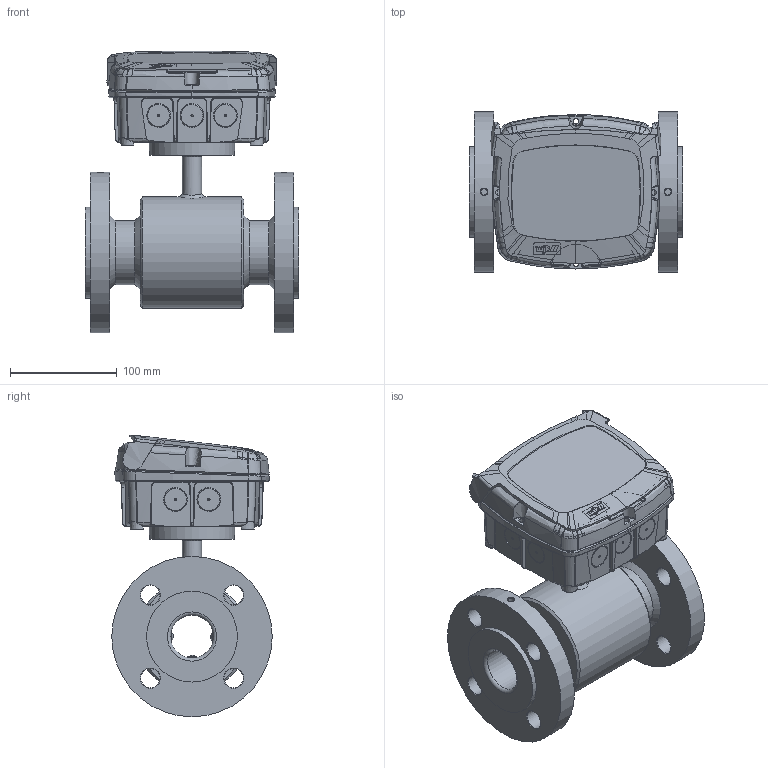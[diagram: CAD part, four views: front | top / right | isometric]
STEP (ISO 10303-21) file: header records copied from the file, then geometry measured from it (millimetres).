
FILE_DESCRIPTION((''),'2;1');
FILE_NAME('C:\Users\Claus\Dropbox\Projects 2011 - 2012\MJK Automation AS\DN 40 - DIN EN-1095-1.stp','2014-10-24T15:20:18',('Claus'),(''),'Autodesk Inventor 2013','Autodesk Inventor 2013','');
FILE_SCHEMA(('AUTOMOTIVE_DESIGN { 1 0 10303 214 1 1 1 1 }'));
Length unit declared in the file: millimetre
Products named in the file (7): DN 40 - DIN EN-1095-1; FC_MagFlux_assembly_r1; CH Bund ml; FC Top rev 06.04; CH 03.02; Electrode group DN15 - DN32
Assembly tree (8 placements, depth 3):
  DN 40 - DIN EN-1095-1
    DN 40 - DIN EN-1095-1
    FC_MagFlux_assembly_r1
      CH Bund ml
      FC Top rev 06.04
      CH 03.02
    Electrode group DN15 - DN32  x3
Bounding box: 200 x 150 x 263.34 mm (x, y, z)
Volume: 1772744.7 mm3; surface area: 415036.3 mm2
Topology: 10 solids, 10 shells, 2945 faces, 8006 edges, 5205 vertices
Faces by surface type: bspline 1754, plane 810, cylinder 202, cone 139, torus 25, revolution 9, sphere 6
Full cylindrical faces by diameter (mm): 2.5 x3, 3 x6, 4 x1, 6 x2, 6.5 x4, 7.042 x4, 8 x3, 8.048 x4, 12.072 x4, 15 x1, 18 x9, 18.108 x1, 40 x1, 60 x2, 64 x1, 85 x2, 104 x1, 150 x2
Entity records: 234178 total; most frequent: CARTESIAN_POINT 171626, ORIENTED_EDGE 15500, DIRECTION 7773, EDGE_CURVE 7750, VERTEX_POINT 5141, EDGE_LOOP 3275, VECTOR 3112, LINE 3112
